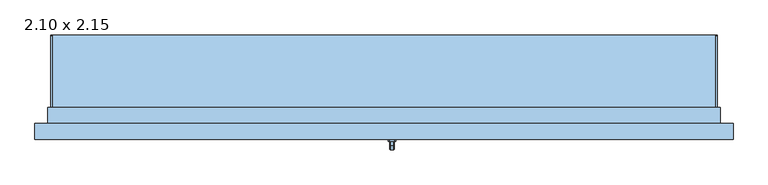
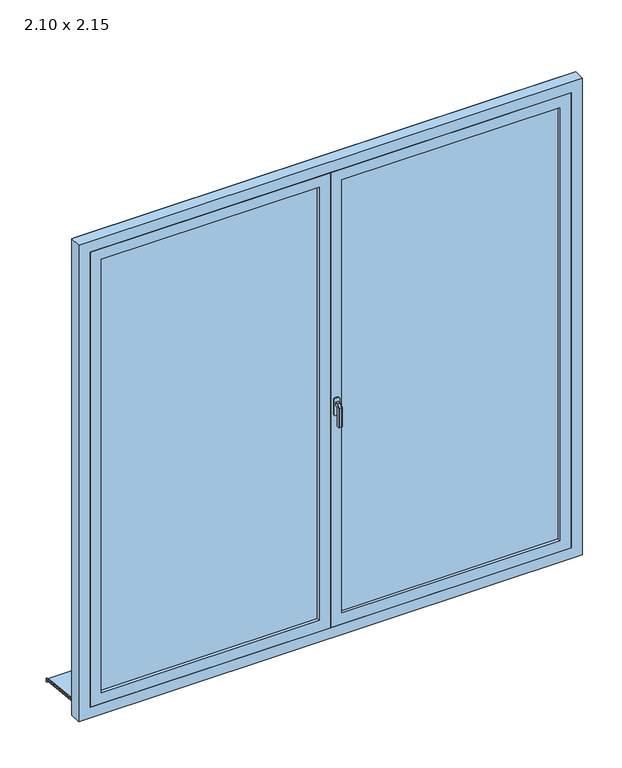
"""IFC4 building model written with IfcOpenShell, lengths in millimetres: window geometry, PF 2 Vantaux - Droits : 2.10 x 2.15."""

from ifc_helpers import new_model, si_unit, point, frame, frame_2d, origin, place, context, project, spatial, polyline, circle_curve, trimmed, segment, composite_curve, outline, extrude, faceted_brep, source, transform, mapped, element, save


def window_2_10_x_2_15_0009b032(model_context):
    return source(origin(), model_context, "Body", "SolidModel", [
        faceted_brep([(30.6460097, -166.0, 1122.0339292), (32.0339292, -166.0, 1120.6460097), (32.0339292, -166.0, 1109.3323012), (30.6676988, -166.0, 1107.9660708), (19.3323012, -166.0, 1107.9660708), (17.9660708, -166.0, 1109.3323012), (17.9660708, -166.0, 1120.6460097), (19.3539903, -166.0, 1122.0339292), (30.6460097, -178.9135489, 1122.0339292), (32.0339292, -178.3386538, 1120.6460097), (32.0339292, -191.6460097, 1107.3386538), (32.0339292, -191.6460097, 1020.0), (32.0339292, -180.3323012, 1020.0), (32.0339292, -180.3323012, 1102.6523623), (32.0339292, -173.6523623, 1109.3323012), (30.6676988, -173.0864511, 1107.9660708), (19.3323012, -173.0864511, 1107.9660708), (17.9660708, -173.6523623, 1109.3323012), (17.9660708, -180.3323012, 1102.6523623), (17.9660708, -180.3323012, 1020.0), (17.9660708, -191.6460097, 1020.0), (17.9660708, -191.6460097, 1107.3386538), (17.9660708, -178.3386538, 1120.6460097), (19.3539903, -178.9135489, 1122.0339292), (30.6460097, -193.0339292, 1107.9135489), (30.6676988, -178.9660708, 1102.0864511), (19.3323012, -178.9660708, 1102.0864511), (19.3539903, -193.0339292, 1107.9135489), (30.6460097, -193.0339292, 1020.0), (19.3539903, -193.0339292, 1020.0), (19.3323012, -178.9660708, 1020.0), (30.6676988, -178.9660708, 1020.0)], [[[0, 1, 2, 3, 4, 5, 6, 7]], [[1, 0, 8, 9]], [[2, 1, 9, 10, 11, 12, 13, 14]], [[3, 2, 14, 15]], [[4, 3, 15, 16]], [[5, 4, 16, 17]], [[6, 5, 17, 18, 19, 20, 21, 22]], [[7, 6, 22, 23]], [[0, 7, 23, 8]], [[9, 8, 24, 10]], [[15, 14, 13, 25]], [[16, 15, 25, 26]], [[17, 16, 26, 18]], [[23, 22, 21, 27]], [[8, 23, 27, 24]], [[28, 29, 20, 19, 30, 31, 12, 11]], [[10, 24, 28, 11]], [[25, 13, 12, 31]], [[26, 25, 31, 30]], [[18, 26, 30, 19]], [[27, 21, 20, 29]], [[24, 27, 29, 28]]]),
        extrude(outline(polyline([(1140.0, 32.0), (1140.0, 18.0), (1135.0, 13.0), (1065.0, 13.0), (1060.0, 18.0), (1060.0, 32.0), (1065.0, 37.0), (1135.0, 37.0), (1140.0, 32.0)])), frame((0.0, -166.0, 0.0), z_axis=(0.0, 1.0, 0.0), x_axis=(0.0, 0.0, 1.0)), (0.0, 0.0, 1.0), 6.0),
        extrude(outline(polyline([(170.0288776, 13.9761178), (170.0288776, 2.8979153), (165.0288776, 3.4234365), (165.0288776, 9.2464272), (-80.0, 35.0), (-80.0, 50.0), (-75.0, 50.0), (-75.0, 39.7296906), (170.0288776, 13.9761178)])), frame((-1050.0, 0.0, 0.0), z_axis=(1.0, 0.0, 0.0), x_axis=(0.0, 1.0, 0.0)), (0.0, 0.0, 1.0), 2100.0),
        extrude(outline(composite_curve([segment(polyline([(170.0288776, 13.9761178), (-75.0, 39.7296906), (-75.0, 44.757232), (166.4469915, 19.3801306)]), True, "CONTINUOUS"), segment(trimmed(circle_curve(frame_2d((166.0288776, 15.402043)), 4.0), [point((166.4469915, 19.3801306))], [point((170.0288776, 15.402043))], False, "CARTESIAN"), True, "CONTINUOUS"), segment(polyline([(170.0288776, 15.402043), (170.0288776, 13.9761178)]), True, "CONTINUOUS")], self_intersect=False)), frame((-1050.0, 0.0, 0.0), z_axis=(1.0, 0.0, 0.0), x_axis=(0.0, 1.0, 0.0)), (0.0, 0.0, 1.0), 5.0),
        extrude(outline(composite_curve([segment(polyline([(170.0288776, 13.9761178), (-75.0, 39.7296906), (-75.0, 44.757232), (166.4469915, 19.3801306)]), True, "CONTINUOUS"), segment(trimmed(circle_curve(frame_2d((166.0288776, 15.402043)), 4.0), [point((166.4469915, 19.3801306))], [point((170.0288776, 15.402043))], False, "CARTESIAN"), True, "CONTINUOUS"), segment(polyline([(170.0288776, 15.402043), (170.0288776, 13.9761178)]), True, "CONTINUOUS")], self_intersect=False)), frame((1045.0, 0.0, 0.0), z_axis=(1.0, 0.0, 0.0), x_axis=(0.0, 1.0, 0.0)), (0.0, 0.0, 1.0), 5.0),
        extrude(outline(polyline([(85.0, 0.0), (2185.0, 0.0), (2185.0, -1050.0), (85.0, -1050.0), (85.0, 0.0)]), holes=[polyline([(135.0, -1000.0), (2135.0, -1000.0), (2135.0, -50.0), (135.0, -50.0), (135.0, -1000.0)])]), frame((0.0, -160.0, 0.0), z_axis=(0.0, 1.0, 0.0), x_axis=(0.0, 0.0, 1.0)), (0.0, 0.0, 1.0), 40.0),
        extrude(outline(polyline([(50.0, -134.0), (1000.0, -134.0), (1000.0, -146.0), (50.0, -146.0), (50.0, -134.0)])), frame((0.0, 0.0, 135.0), z_axis=(0.0, 0.0, 1.0), x_axis=(1.0, 0.0, 0.0)), (0.0, 0.0, 1.0), 2000.0),
        extrude(outline(polyline([(-1000.0, -134.0), (-50.0, -134.0), (-50.0, -146.0), (-1000.0, -146.0), (-1000.0, -134.0)])), frame((0.0, 0.0, 135.0), z_axis=(0.0, 0.0, 1.0), x_axis=(1.0, 0.0, 0.0)), (0.0, 0.0, 1.0), 2000.0),
        extrude(outline(polyline([(85.0, 1050.0), (2185.0, 1050.0), (2185.0, 0.0), (85.0, 0.0), (85.0, 1050.0)]), holes=[polyline([(135.0, 50.0), (2135.0, 50.0), (2135.0, 1000.0), (135.0, 1000.0), (135.0, 50.0)])]), frame((0.0, -160.0, 0.0), z_axis=(0.0, 1.0, 0.0), x_axis=(0.0, 0.0, 1.0)), (0.0, 0.0, 1.0), 40.0),
        faceted_brep([(-1100.0, -160.0, 35.0), (-1100.0, -110.0, 35.0), (-1050.0, -110.0, 35.0), (-1050.0, -80.0, 35.0), (1050.0, -80.0, 35.0), (1050.0, -110.0, 35.0), (1100.0, -110.0, 35.0), (1100.0, -160.0, 35.0), (-1100.0, -160.0, 2235.0), (-1100.0, -110.0, 2235.0), (1100.0, -110.0, 2235.0), (1050.0, -110.0, 74.3761425), (-1050.0, -110.0, 74.3761425), (-1035.0, -110.0, 2170.0), (-1035.0, -110.0, 100.0), (1035.0, -110.0, 100.0), (1035.0, -110.0, 2170.0), (-1050.0, -60.0, 60.9786829), (-1050.0, -60.0, 45.0), (-1050.0, -70.0, 45.0), (-1050.0, -70.0, 50.0), (-1050.0, -80.0, 50.0), (1050.0, -80.0, 50.0), (1050.0, -70.0, 50.0), (1050.0, -70.0, 45.0), (1050.0, -60.0, 45.0), (1050.0, -60.0, 60.9786829), (1100.0, -160.0, 2235.0), (1050.0, -160.0, 2185.0), (1050.0, -160.0, 85.0), (-1050.0, -160.0, 85.0), (-1050.0, -160.0, 2185.0), (-1035.0, -120.0, 2170.0), (-1035.0, -120.0, 100.0), (1035.0, -120.0, 100.0), (1035.0, -120.0, 2170.0), (1050.0, -120.0, 2185.0), (-1050.0, -120.0, 2185.0), (-1050.0, -120.0, 85.0), (1050.0, -120.0, 85.0)], [[[0, 1, 2, 3, 4, 5, 6, 7]], [[1, 0, 8, 9]], [[1, 9, 10, 6, 5, 11, 12, 2], [13, 14, 15, 16]], [[12, 17, 18, 19, 20, 21, 3, 2]], [[3, 21, 22, 4]], [[4, 22, 23, 24, 25, 26, 11, 5]], [[6, 10, 27, 7]], [[0, 7, 27, 8], [28, 29, 30, 31]], [[13, 32, 33, 14]], [[33, 34, 15, 14]], [[35, 16, 15, 34]], [[17, 12, 11, 26]], [[36, 37, 38, 39], [32, 35, 34, 33]], [[38, 37, 31, 30]], [[30, 29, 39, 38]], [[28, 36, 39, 29]], [[18, 17, 26, 25]], [[19, 18, 25, 24]], [[20, 19, 24, 23]], [[21, 20, 23, 22]], [[13, 16, 35, 32]], [[37, 36, 28, 31]], [[10, 9, 8, 27]]]),
        extrude(outline(polyline([(35.0, -1060.0), (35.0, -1050.0), (2185.0, -1050.0), (2185.0, 1050.0), (35.0, 1050.0), (35.0, 1060.0), (2195.0, 1060.0), (2195.0, -1060.0), (35.0, -1060.0)])), frame((0.0, -110.0, 0.0), z_axis=(0.0, 1.0, 0.0), x_axis=(0.0, 0.0, 1.0)), (0.0, 0.0, 1.0), 50.0),
        extrude(outline(polyline([(20.0, -112.0), (20.0, -120.0), (-20.0, -120.0), (-20.0, -112.0), (20.0, -112.0)])), frame((0.0, 0.0, 100.0), z_axis=(0.0, 0.0, 1.0), x_axis=(1.0, 0.0, 0.0)), (0.0, 0.0, 1.0), 2070.0),
    ])


if __name__ == "__main__":
    model = new_model("IFC4")
    model_context = context("Model", 3, world=origin())
    ifc_project = project(units=[si_unit("LENGTHUNIT", "METRE", prefix="MILLI")], contexts=[model_context])
    site = spatial("IfcSite", under=ifc_project)
    building = spatial("IfcBuilding", under=site)
    placement = place(None, origin())
    window_2_10_x_2_15_shape = window_2_10_x_2_15_0009b032(model_context)
    element("IfcWindow", 1, ObjectType="PF 2 Vantaux - Droits : 2.10 x 2.15", at=placement, inside=building, context=model_context, shape_type="MappedRepresentation", body=[
        mapped(window_2_10_x_2_15_shape, transform((0.0, 0.0, 0.0), x_axis=(1.0, 0.0, 0.0), y_axis=(0.0, 1.0, 0.0), z_axis=(0.0, 0.0, 1.0))),
    ])
    save(model, "model.ifc")
